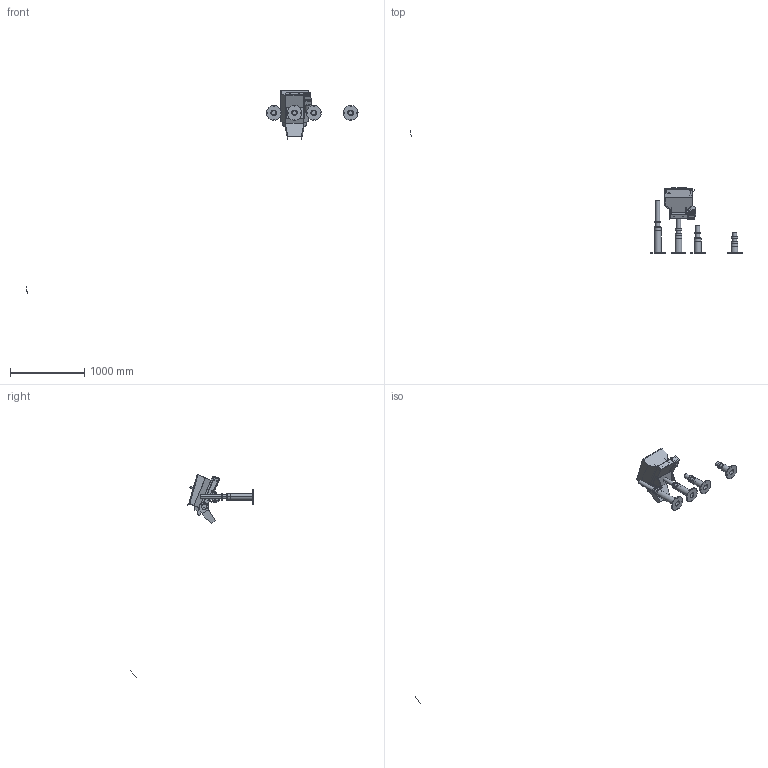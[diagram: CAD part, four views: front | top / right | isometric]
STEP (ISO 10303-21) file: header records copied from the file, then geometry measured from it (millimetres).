
FILE_DESCRIPTION (( 'STEP AP203' ), '1' );
FILE_NAME ('SC2018怀冞蹋累.STEP', '2025-07-13T02:54:18', ( '' ), ( '' ), 'SwSTEP 2.0', 'SolidWorks 2022', '' );
FILE_SCHEMA (( 'CONFIG_CONTROL_DESIGN' ));
Length unit declared in the file: millimetre
Products named in the file (1): SC2018怀冞蹋累
Bounding box: 4483.87 x 1660.86 x 2745.68 mm (x, y, z)
Surface area: 3030399 mm2 (no closed solid volume)
Topology: 0 solids, 35 shells, 650 faces, 1676 edges, 1100 vertices
Faces by surface type: cylinder 351, plane 277, bspline 8, cone 8, torus 6
Entity records: 27363 total; most frequent: CARTESIAN_POINT 13657, ORIENTED_EDGE 3316, DIRECTION 1864, EDGE_CURVE 1660, B_SPLINE_CURVE_WITH_KNOTS 1310, VERTEX_POINT 1100, AXIS2_PLACEMENT_3D 871, EDGE_LOOP 853
